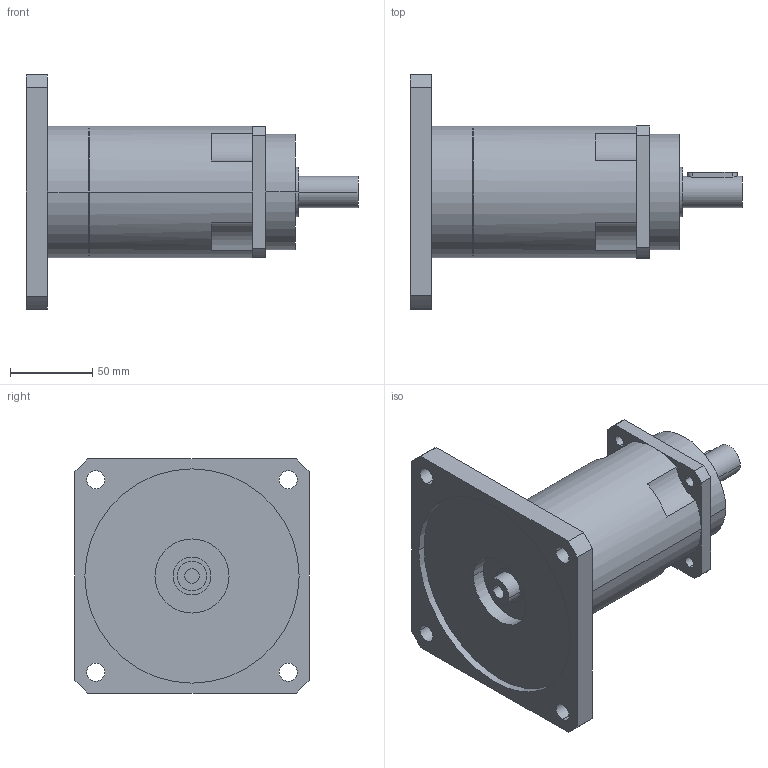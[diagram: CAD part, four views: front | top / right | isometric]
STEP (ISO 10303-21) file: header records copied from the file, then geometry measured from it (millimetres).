
FILE_DESCRIPTION(('CoCreate Modeling STEP Export'),'2;1');
FILE_NAME('GPR100_ig-48-64-80-100-120-144-180-216_19_B5_9_P16.stp','2014-08-26T13:05:15',(''),(''),'CoCreate Modeling STEP processor for AP214 (Solid Model)','CoCreate Modeling 16.00C 25-Feb-2009 (C) Parametric Technology GmbH','');
FILE_SCHEMA(('AUTOMOTIVE_DESIGN { 1 0 10303 214 1 1 1 1 }'));
Length unit declared in the file: millimetre
Products named in the file (2): GPR100_ig-48-64-80-100-120-144-180-216_19_B5_9_P16
Assembly tree (1 placements, depth 2):
  GPR100_ig-48-64-80-100-120-144-180-216_19_B5_9_P16
    GPR100_ig-48-64-80-100-120-144-180-216_19_B5_9_P16
Bounding box: 201.4 x 142 x 142 mm (x, y, z)
Volume: 930253.2 mm3; surface area: 97061.4 mm2
Topology: 1 solids, 1 shells, 89 faces, 245 edges, 167 vertices
Faces by surface type: cylinder 52, plane 31, cone 6
Entity records: 2602 total; most frequent: ORIENTED_EDGE 486, CARTESIAN_POINT 472, DIRECTION 386, EDGE_CURVE 243, VERTEX_POINT 167, AXIS2_PLACEMENT_3D 145, EDGE_LOOP 116, VECTOR 96
